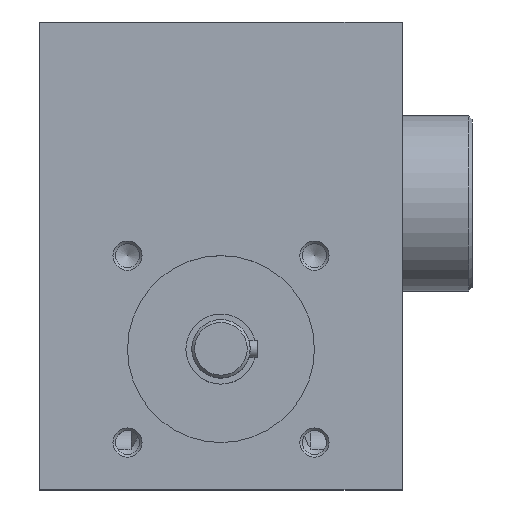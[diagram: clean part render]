
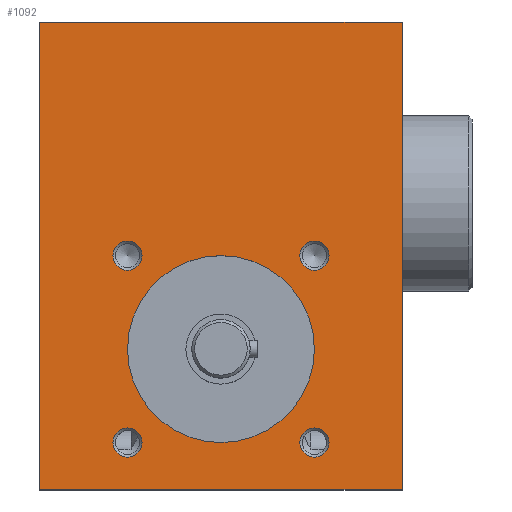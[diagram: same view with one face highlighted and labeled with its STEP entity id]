
A CAD part, top view. The second image highlights one B-rep face of the part: STEP entity #1092.
In plain terms, the highlighted planar face has unit normal (0, 0, 1).
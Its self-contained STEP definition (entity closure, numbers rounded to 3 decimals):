
#86=LINE('',#1689,#114);
#90=LINE('',#1727,#118);
#92=LINE('',#1854,#120);
#93=LINE('',#1855,#121);
#114=VECTOR('',#1327,80.);
#118=VECTOR('',#1369,62.);
#120=VECTOR('',#1463,80.);
#121=VECTOR('',#1464,62.);
#148=PLANE('',#1218);
#191=FACE_BOUND('',#384,.T.);
#192=FACE_BOUND('',#385,.T.);
#193=FACE_BOUND('',#386,.T.);
#194=FACE_BOUND('',#387,.T.);
#195=FACE_BOUND('',#388,.T.);
#268=FACE_OUTER_BOUND('',#383,.T.);
#383=EDGE_LOOP('',(#858,#859,#860,#861));
#384=EDGE_LOOP('',(#862));
#385=EDGE_LOOP('',(#863));
#386=EDGE_LOOP('',(#864));
#387=EDGE_LOOP('',(#865));
#388=EDGE_LOOP('',(#866));
#506=CIRCLE('',#1191,2.5);
#508=CIRCLE('',#1195,2.5);
#513=CIRCLE('',#1206,16.);
#519=CIRCLE('',#1219,2.5);
#520=CIRCLE('',#1220,2.5);
#561=VERTEX_POINT('',#1686);
#562=VERTEX_POINT('',#1688);
#577=VERTEX_POINT('',#1725);
#589=VERTEX_POINT('',#1790);
#591=VERTEX_POINT('',#1818);
#596=VERTEX_POINT('',#1834);
#602=VERTEX_POINT('',#1853);
#603=VERTEX_POINT('',#1856);
#604=VERTEX_POINT('',#1858);
#664=EDGE_CURVE('',#562,#561,#86,.T.);
#680=EDGE_CURVE('',#561,#577,#90,.T.);
#694=EDGE_CURVE('',#589,#589,#506,.T.);
#697=EDGE_CURVE('',#591,#591,#508,.T.);
#702=EDGE_CURVE('',#596,#596,#513,.T.);
#708=EDGE_CURVE('',#577,#602,#92,.T.);
#709=EDGE_CURVE('',#602,#562,#93,.T.);
#710=EDGE_CURVE('',#603,#603,#519,.T.);
#711=EDGE_CURVE('',#604,#604,#520,.T.);
#858=ORIENTED_EDGE('',*,*,#664,.T.);
#859=ORIENTED_EDGE('',*,*,#680,.T.);
#860=ORIENTED_EDGE('',*,*,#708,.T.);
#861=ORIENTED_EDGE('',*,*,#709,.T.);
#862=ORIENTED_EDGE('',*,*,#710,.F.);
#863=ORIENTED_EDGE('',*,*,#711,.F.);
#864=ORIENTED_EDGE('',*,*,#697,.F.);
#865=ORIENTED_EDGE('',*,*,#694,.F.);
#866=ORIENTED_EDGE('',*,*,#702,.F.);
#1092=ADVANCED_FACE('',(#268,#191,#192,#193,#194,#195),#148,.T.);
#1191=AXIS2_PLACEMENT_3D('',#1791,#1407,#1408);
#1195=AXIS2_PLACEMENT_3D('',#1819,#1415,#1416);
#1206=AXIS2_PLACEMENT_3D('',#1835,#1437,#1438);
#1218=AXIS2_PLACEMENT_3D('',#1852,#1461,#1462);
#1219=AXIS2_PLACEMENT_3D('',#1857,#1465,#1466);
#1220=AXIS2_PLACEMENT_3D('',#1859,#1467,#1468);
#1327=DIRECTION('',(0.,-1.,0.));
#1369=DIRECTION('',(1.,0.,0.));
#1407=DIRECTION('center_axis',(0.,0.,1.));
#1408=DIRECTION('ref_axis',(1.,0.,0.));
#1415=DIRECTION('center_axis',(0.,0.,1.));
#1416=DIRECTION('ref_axis',(1.,0.,0.));
#1437=DIRECTION('center_axis',(0.,0.,1.));
#1438=DIRECTION('ref_axis',(1.,0.,0.));
#1461=DIRECTION('center_axis',(0.,0.,1.));
#1462=DIRECTION('ref_axis',(1.,0.,0.));
#1463=DIRECTION('',(0.,1.,0.));
#1464=DIRECTION('',(-1.,0.,0.));
#1465=DIRECTION('center_axis',(0.,0.,1.));
#1466=DIRECTION('ref_axis',(1.,0.,0.));
#1467=DIRECTION('center_axis',(0.,0.,1.));
#1468=DIRECTION('ref_axis',(1.,0.,0.));
#1686=CARTESIAN_POINT('',(0.,-49.,36.));
#1688=CARTESIAN_POINT('',(0.,31.,36.));
#1689=CARTESIAN_POINT('',(0.,31.,36.));
#1725=CARTESIAN_POINT('',(62.,-49.,36.));
#1727=CARTESIAN_POINT('',(0.,-49.,36.));
#1790=CARTESIAN_POINT('',(17.5,-41.,36.));
#1791=CARTESIAN_POINT('Origin',(15.,-41.,36.));
#1818=CARTESIAN_POINT('',(49.5,-41.,36.));
#1819=CARTESIAN_POINT('Origin',(47.,-41.,36.));
#1834=CARTESIAN_POINT('',(47.,-25.,36.));
#1835=CARTESIAN_POINT('Origin',(31.,-25.,36.));
#1852=CARTESIAN_POINT('Origin',(0.,-49.,36.));
#1853=CARTESIAN_POINT('',(62.,31.,36.));
#1854=CARTESIAN_POINT('',(62.,-49.,36.));
#1855=CARTESIAN_POINT('',(62.,31.,36.));
#1856=CARTESIAN_POINT('',(17.5,-9.,36.));
#1857=CARTESIAN_POINT('Origin',(15.,-9.,36.));
#1858=CARTESIAN_POINT('',(49.5,-9.,36.));
#1859=CARTESIAN_POINT('Origin',(47.,-9.,36.));
